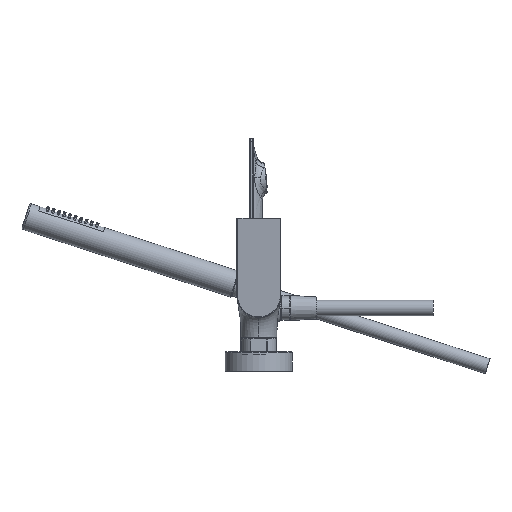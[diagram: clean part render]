
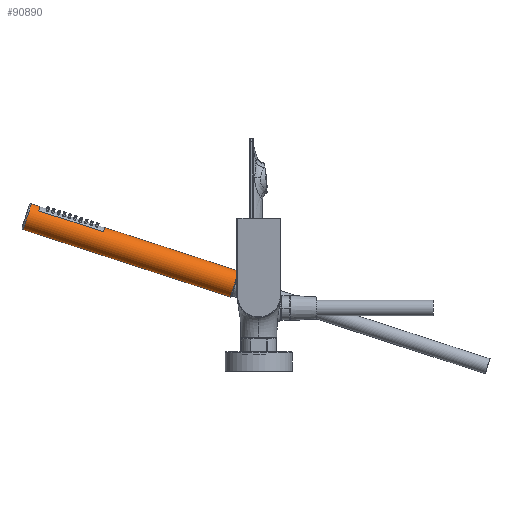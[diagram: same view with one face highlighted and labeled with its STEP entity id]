
A CAD part, left-side view. The second image highlights one B-rep face of the part: STEP entity #90890.
In plain terms, the highlighted cylindrical face has radius 13 mm (diameter 26 mm), a partial arc.
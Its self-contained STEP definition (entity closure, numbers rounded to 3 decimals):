
#83928=CARTESIAN_POINT('',(123.25,212.942,72.539));
#83929=DIRECTION('',(0.,-0.951,-0.309));
#83930=DIRECTION('',(0.,-0.309,0.951));
#83931=AXIS2_PLACEMENT_3D('',#83928,#83929,#83930);
#83933=DIRECTION('',(0.,-0.951,-0.309));
#83934=VECTOR('',#83933,65.);
#83935=CARTESIAN_POINT('',(113.615,210.245,80.839));
#83936=LINE('',#83935,#83934);
#83937=CARTESIAN_POINT('',(123.25,151.123,52.453));
#83938=DIRECTION('',(0.,-0.951,-0.309));
#83939=DIRECTION('',(0.,-0.309,0.951));
#83940=AXIS2_PLACEMENT_3D('',#83937,#83938,#83939);
#83942=DIRECTION('',(0.,0.951,0.309));
#83943=VECTOR('',#83942,134.5);
#83944=CARTESIAN_POINT('',(123.25,19.189,23.254));
#83945=LINE('',#83944,#83943);
#83946=CARTESIAN_POINT('',(123.25,23.206,10.89));
#83947=DIRECTION('',(0.,0.951,0.309));
#83948=DIRECTION('',(0.,0.309,-0.951));
#83949=AXIS2_PLACEMENT_3D('',#83946,#83947,#83948);
#83951=DIRECTION('',(0.,0.951,0.309));
#83952=VECTOR('',#83951,208.);
#83953=CARTESIAN_POINT('',(123.25,27.223,
-1.474));
#83954=LINE('',#83953,#83952);
#83955=CARTESIAN_POINT('',(123.25,221.026,75.166));
#83956=DIRECTION('',(0.,0.951,0.309));
#83957=DIRECTION('',(0.,0.309,-0.951));
#83958=AXIS2_PLACEMENT_3D('',#83955,#83956,#83957);
#83960=DIRECTION('',(0.,0.951,0.309));
#83961=VECTOR('',#83960,8.5);
#83962=CARTESIAN_POINT('',(123.25,208.924,84.903));
#83963=LINE('',#83962,#83961);
#90307=CARTESIAN_POINT('',(123.25,225.043,62.802));
#90308=CARTESIAN_POINT('',(123.25,217.008,87.529));
#90309=VERTEX_POINT('',#90307);
#90310=VERTEX_POINT('',#90308);
#90311=CARTESIAN_POINT('',(123.25,19.189,23.254));
#90312=CARTESIAN_POINT('',(123.25,27.223,-1.474));
#90313=VERTEX_POINT('',#90311);
#90314=VERTEX_POINT('',#90312);
#90328=CARTESIAN_POINT('',(123.25,208.924,84.903));
#90330=VERTEX_POINT('',#90328);
#90332=CARTESIAN_POINT('',(123.25,147.106,64.817));
#90334=VERTEX_POINT('',#90332);
#90335=CARTESIAN_POINT('',(113.615,210.245,80.839));
#90336=VERTEX_POINT('',#90335);
#90337=CARTESIAN_POINT('',(113.615,148.426,60.753));
#90338=VERTEX_POINT('',#90337);
#90871=CARTESIAN_POINT('',(123.25,232.914,79.028));
#90872=DIRECTION('',(0.,-0.951,-0.309));
#90873=DIRECTION('',(0.,-0.309,0.951));
#90874=AXIS2_PLACEMENT_3D('',#90871,#90872,#90873);
#90875=CYLINDRICAL_SURFACE('',#90874,13.);
#90876=ORIENTED_EDGE('',*,*,#90843,.T.);
#90878=ORIENTED_EDGE('',*,*,#90877,.T.);
#90880=ORIENTED_EDGE('',*,*,#90879,.F.);
#90881=ORIENTED_EDGE('',*,*,#90862,.F.);
#90883=ORIENTED_EDGE('',*,*,#90882,.F.);
#90884=ORIENTED_EDGE('',*,*,#90858,.T.);
#90886=ORIENTED_EDGE('',*,*,#90885,.T.);
#90887=ORIENTED_EDGE('',*,*,#90854,.F.);
#90888=EDGE_LOOP('',(#90876,#90878,#90880,#90881,#90883,#90884,#90886,#90887));
#90889=FACE_OUTER_BOUND('',#90888,.F.);
#90890=ADVANCED_FACE('',(#90889),#90875,.T.);
#83932=CIRCLE('',#83931,13.);
#83941=CIRCLE('',#83940,13.);
#83950=CIRCLE('',#83949,13.);
#83959=CIRCLE('',#83958,13.);
#90843=EDGE_CURVE('',#90330,#90336,#83932,.T.);
#90854=EDGE_CURVE('',#90330,#90310,#83963,.T.);
#90858=EDGE_CURVE('',#90314,#90309,#83954,.T.);
#90862=EDGE_CURVE('',#90313,#90334,#83945,.T.);
#90877=EDGE_CURVE('',#90336,#90338,#83936,.T.);
#90879=EDGE_CURVE('',#90334,#90338,#83941,.T.);
#90882=EDGE_CURVE('',#90314,#90313,#83950,.T.);
#90885=EDGE_CURVE('',#90309,#90310,#83959,.T.);
